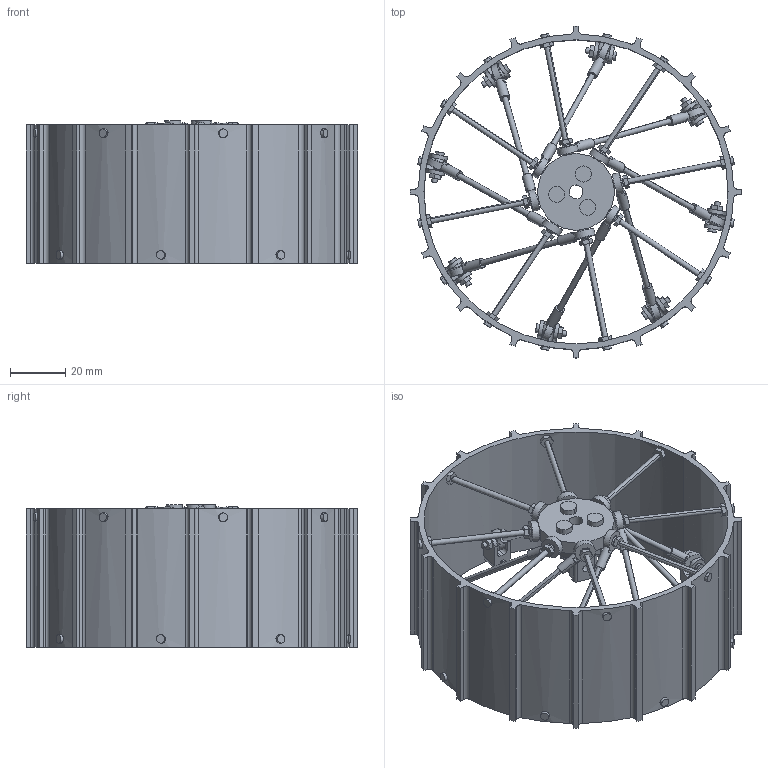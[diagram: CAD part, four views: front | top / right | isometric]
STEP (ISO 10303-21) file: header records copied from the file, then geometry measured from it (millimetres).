
FILE_DESCRIPTION (( 'STEP AP214' ), '1' );
FILE_NAME ('Esimene_kodaratega.STEP', '2025-05-19T12:20:52', ( '' ), ( '' ), 'SwSTEP 2.0', 'SolidWorks 2024', '' );
FILE_SCHEMA (( 'AUTOMOTIVE_DESIGN' ));
Length unit declared in the file: millimetre
Products named in the file (12): KK.009.007.Wheel_adapter_hexagon; Joint; M3_12mm; Bolt_50mm; Esimene_kodaratega; Wheel; Spoke_connector; Bolt_10mm; NutM2; Spoke; Connetor; Ball
Assembly tree (102 placements, depth 2):
  Esimene_kodaratega
    Wheel
    KK.009.007.Wheel_adapter_hexagon
    Bolt_50mm  x8
    Connetor
    Ball  x16
    Joint  x16
    Spoke_connector  x8
    Spoke  x8
    Bolt_10mm  x16
    M3_12mm  x3
    NutM2  x24
Bounding box: 120 x 120 x 51.5 mm (x, y, z)
Volume: 54870 mm3; surface area: 62938 mm2
Topology: 126 solids, 126 shells, 1254 faces, 3071 edges, 2016 vertices
Faces by surface type: cylinder 559, plane 544, sphere 64, torus 32, bspline 32, cone 23
Entity records: 12894 total; most frequent: CARTESIAN_POINT 3648, DIRECTION 1921, ORIENTED_EDGE 1692, EDGE_CURVE 846, AXIS2_PLACEMENT_3D 741, VERTEX_POINT 556, LINE 439, VECTOR 439
